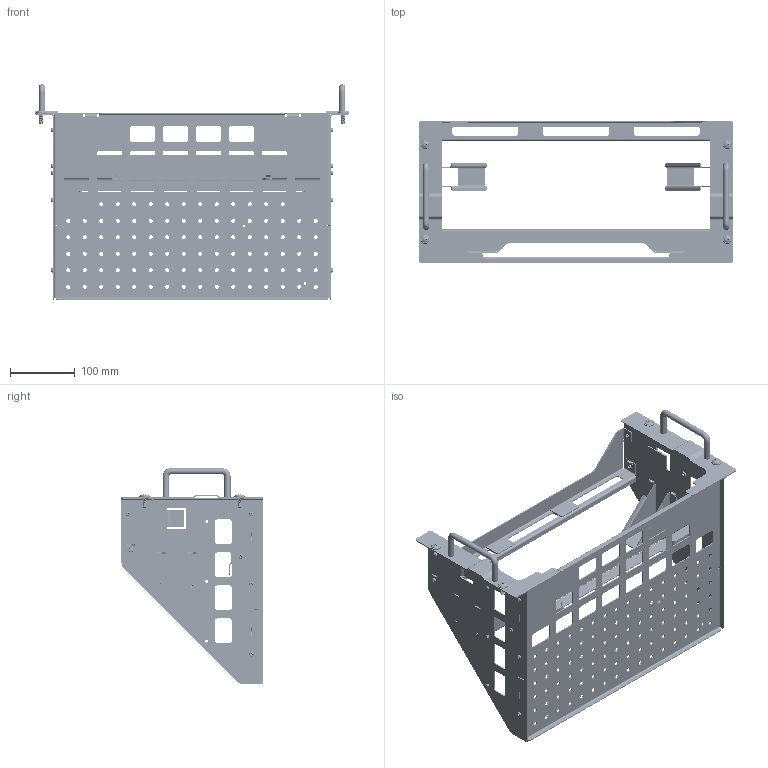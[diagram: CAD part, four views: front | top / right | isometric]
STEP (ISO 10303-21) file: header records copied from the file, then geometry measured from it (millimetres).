
FILE_DESCRIPTION((''),'2;1');
FILE_NAME('RACKMOUNT_MAL_ASM','2016-10-20T',('thnguyen'),(''),'CREO PARAMETRIC BY PTC INC, 2014440','CREO PARAMETRIC BY PTC INC, 2014440','');
FILE_SCHEMA(('CONFIG_CONTROL_DESIGN'));
Length unit declared in the file: inch
Products named in the file (32): BRKT_RKMT_BOTTOM_MAL; S-632-2; BRKT_RKMT_BOTTOM_MAL_ASM; BRKT_RKMT_REAR_FEET_MAL; BRKT_RKMT_REAR_FEET_MAL_ASM; BRKT_RKMT_TOP_MAL; CUSHION_RKMT_MAL; BRKT_RKMT_TOP_MAL_ASM; BRKT_RKMT_RIGHT_SIDE_MAL; SS-032-2; BRKT_RKMT_RIGHT_SIDE_MAL_ASM; BRKT_RKMT_LEFT_SIDE_MAL; TPS-125-6; BRKT_RKMT_LEFT_SIDE_MAL_ASM; BRKT_RKMT_HANDLE_MAL; BRKT_RKMT_HANDLE_MAL_ASM; BRKT_RKMT_RIGHT_FRONT_MAL; BRKT_RKMT_LEFT_FRONT_MAL; SCREW_FH_6-32X312_POZ_SS_LIB; SCREW_PH_6-32X312_POZ_SS_LIB; SCREW_FH_8-32X500_POZ_SS_LIB; AN_HANDLE_RM2; WASHER_FLAT_203X625_ST_ZI_LIB; WASHER_FLAT_M6_ST_ZI_LIB; WASHER_FINISH; SCREW_OH_M5X16_PH_SS_LIB; SCREW_OH_M6X16_PH_SS_LIB; SCREW_OH_10-32X75_POZ_ST_ZI_LIB; SCREW_OH_12-24X75_POZ_ST_ZI_LIB; MANUAL_RKMT_BULK_MAL; KIT_HARDWARE_RKMT_BULK_FSN; RACKMOUNT_MAL_ASM
Assembly tree (95 placements, depth 3):
  RACKMOUNT_MAL_ASM
    BRKT_RKMT_BOTTOM_MAL_ASM
      BRKT_RKMT_BOTTOM_MAL
      S-632-2  x6
    BRKT_RKMT_REAR_FEET_MAL_ASM
      BRKT_RKMT_REAR_FEET_MAL
      S-632-2  x2
    BRKT_RKMT_TOP_MAL_ASM
      BRKT_RKMT_TOP_MAL
      S-632-2  x4
      CUSHION_RKMT_MAL  x4
    BRKT_RKMT_RIGHT_SIDE_MAL_ASM
      BRKT_RKMT_RIGHT_SIDE_MAL
      SS-032-2  x3
      CUSHION_RKMT_MAL
    BRKT_RKMT_LEFT_SIDE_MAL_ASM
      BRKT_RKMT_LEFT_SIDE_MAL
      SS-032-2  x3
      TPS-125-6
      CUSHION_RKMT_MAL
    BRKT_RKMT_HANDLE_MAL_ASM  x2
      BRKT_RKMT_HANDLE_MAL
      S-632-2
      CUSHION_RKMT_MAL
    BRKT_RKMT_RIGHT_FRONT_MAL
    BRKT_RKMT_LEFT_FRONT_MAL
    SCREW_FH_6-32X312_POZ_SS_LIB  x4
    SCREW_PH_6-32X312_POZ_SS_LIB  x12
    SCREW_FH_8-32X500_POZ_SS_LIB  x4
    AN_HANDLE_RM2  x2
    WASHER_FLAT_203X625_ST_ZI_LIB  x4
    WASHER_FLAT_M6_ST_ZI_LIB  x4
    WASHER_FINISH  x4
    SCREW_OH_M5X16_PH_SS_LIB  x4
    SCREW_OH_M6X16_PH_SS_LIB  x4
    SCREW_OH_10-32X75_POZ_ST_ZI_LIB  x4
    SCREW_OH_12-24X75_POZ_ST_ZI_LIB  x4
    MANUAL_RKMT_BULK_MAL
    KIT_HARDWARE_RKMT_BULK_FSN
Bounding box: 482.6 x 219.71 x 331.86 mm (x, y, z)
Volume: 518018.4 mm3; surface area: 665064.7 mm2
Topology: 90 solids, 90 shells, 3468 faces, 9010 edges, 5694 vertices
Faces by surface type: plane 1432, cylinder 1398, cone 334, bspline 168, torus 80, sphere 56
Entity records: 71173 total; most frequent: CARTESIAN_POINT 23832, DIRECTION 9983, ORIENTED_EDGE 9522, EDGE_CURVE 4761, AXIS2_PLACEMENT_3D 3638, VERTEX_POINT 2947, VECTOR 2707, LINE 2707
